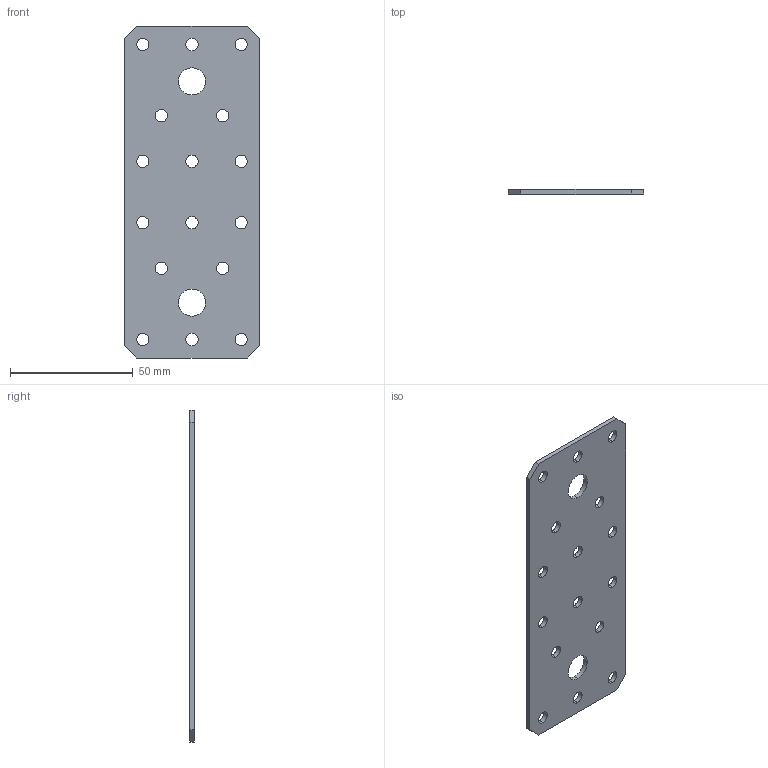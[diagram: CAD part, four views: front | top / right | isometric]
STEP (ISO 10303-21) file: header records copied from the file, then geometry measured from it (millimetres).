
FILE_DESCRIPTION (( 'STEP AP203' ), '1' );
FILE_NAME ('145.STEP', '2019-12-10T11:00:42', ( '' ), ( '' ), 'SwSTEP 2.0', 'SolidWorks 2013', '' );
FILE_SCHEMA (( 'CONFIG_CONTROL_DESIGN' ));
Length unit declared in the file: millimetre
Products named in the file (1): 145
Bounding box: 55 x 2 x 135 mm (x, y, z)
Volume: 13741.5 mm3; surface area: 15119 mm2
Topology: 1 solids, 1 shells, 46 faces, 132 edges, 88 vertices
Faces by surface type: cylinder 36, plane 10
Entity records: 1697 total; most frequent: DIRECTION 298, CARTESIAN_POINT 267, ORIENTED_EDGE 264, EDGE_CURVE 132, AXIS2_PLACEMENT_3D 119, VERTEX_POINT 88, EDGE_LOOP 82, CIRCLE 72
